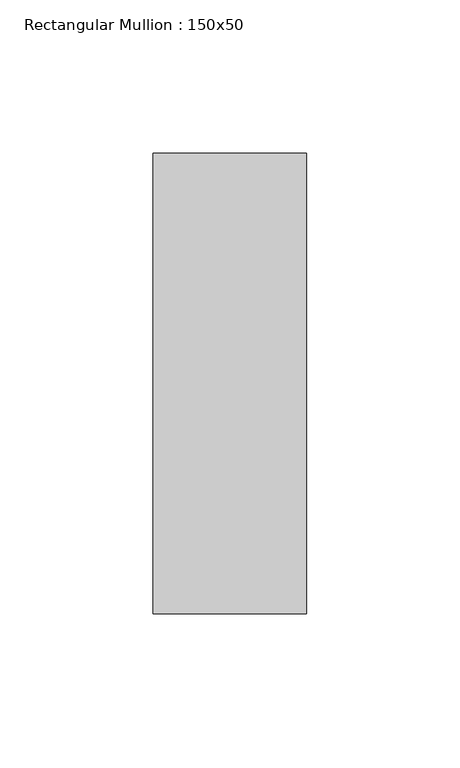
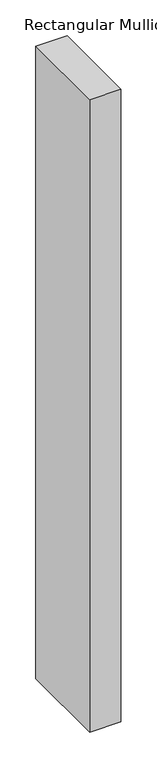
"""IFC4 building model written with IfcOpenShell, lengths in millimetres: member geometry, Rectangular Mullion : 150x50."""

from ifc_helpers import new_model, si_unit, frame, origin, place, context, project, spatial, polyline, outline, extrude, source, transform, mapped, element, save


def rectangular_mullion_150x50_a105bafa(model_context):
    return source(origin(), model_context, "Body", "SweptSolid", [
        extrude(outline(polyline([(0.0, 75.0), (0.0, -75.0), (-50.0, -75.0), (-50.0, 75.0), (0.0, 75.0)])), frame((0.0, 0.0, -1075.0), z_axis=(0.0, 0.0, 1.0), x_axis=(1.0, 0.0, 0.0)), (0.0, 0.0, 1.0), 1075.0),
    ])


if __name__ == "__main__":
    model = new_model("IFC4")
    model_context = context("Model", 3, world=origin())
    ifc_project = project(units=[si_unit("LENGTHUNIT", "METRE", prefix="MILLI")], contexts=[model_context])
    site = spatial("IfcSite", under=ifc_project)
    building = spatial("IfcBuilding", under=site)
    placement = place(None, origin())
    rectangular_mullion_150x50_shape = rectangular_mullion_150x50_a105bafa(model_context)
    element("IfcMember", 1, ObjectType="Rectangular Mullion : 150x50", at=placement, inside=building, context=model_context, shape_type="MappedRepresentation", body=[
        mapped(rectangular_mullion_150x50_shape, transform((0.0, 0.0, 0.0), x_axis=(1.0, 0.0, 0.0), y_axis=(0.0, 1.0, 0.0), z_axis=(0.0, 0.0, 1.0))),
    ])
    save(model, "model.ifc")
